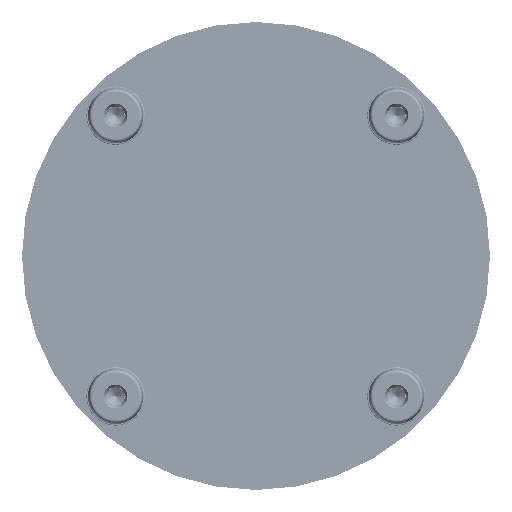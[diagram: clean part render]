
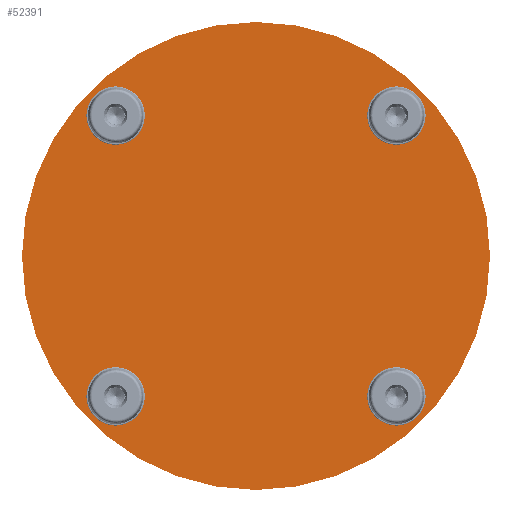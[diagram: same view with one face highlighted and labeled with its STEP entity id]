
A CAD part, front view. The second image highlights one B-rep face of the part: STEP entity #52391.
In plain terms, the highlighted planar face has unit normal (0, -1, 0).
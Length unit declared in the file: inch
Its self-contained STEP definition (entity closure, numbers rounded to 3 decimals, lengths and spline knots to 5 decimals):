
#198 = EDGE_CURVE ( 'NONE', #19396, #61383, #55914, .T. ) ;
#200 = EDGE_CURVE ( 'NONE', #61383, #19396, #22660, .T. ) ;
#1012 = EDGE_CURVE ( 'NONE', #45020, #41344, #14948, .T. ) ;
#1208 = DIRECTION ( 'NONE',  ( 0., -1., 0. ) ) ;
#1370 = CARTESIAN_POINT ( 'NONE',  ( -1.88976, 0., 1.88976 ) ) ;
#1831 = CARTESIAN_POINT ( 'NONE',  ( 1.88976, 0., -1.88976 ) ) ;
#2734 = AXIS2_PLACEMENT_3D ( 'NONE', #1370, #54151, #59600 ) ;
#3017 = CARTESIAN_POINT ( 'NONE',  ( 1.88976, 0., -1.57441 ) ) ;
#3176 = EDGE_CURVE ( 'NONE', #41901, #48479, #38079, .T. ) ;
#3272 = DIRECTION ( 'NONE',  ( 0., 0., 1. ) ) ;
#4342 = FACE_OUTER_BOUND ( 'NONE', #22835, .T. ) ;
#4495 = CARTESIAN_POINT ( 'NONE',  ( -1.88976, 0., -1.88976 ) ) ;
#4694 = CIRCLE ( 'NONE', #40694, 3.14961 ) ;
#6485 = ORIENTED_EDGE ( 'NONE', *, *, #30008, .F. ) ;
#8248 = CARTESIAN_POINT ( 'NONE',  ( 0., 0., 0. ) ) ;
#9280 = ORIENTED_EDGE ( 'NONE', *, *, #39548, .F. ) ;
#9637 = DIRECTION ( 'NONE',  ( 0., -1., 0. ) ) ;
#9663 = AXIS2_PLACEMENT_3D ( 'NONE', #23042, #37602, #3272 ) ;
#10604 = VERTEX_POINT ( 'NONE', #22580 ) ;
#11133 = CARTESIAN_POINT ( 'NONE',  ( -1.88976, 0., 1.88976 ) ) ;
#11587 = AXIS2_PLACEMENT_3D ( 'NONE', #62559, #9637, #48211 ) ;
#12040 = AXIS2_PLACEMENT_3D ( 'NONE', #1831, #1208, #59640 ) ;
#14948 = CIRCLE ( 'NONE', #57300, 0.31535 ) ;
#15359 = EDGE_LOOP ( 'NONE', ( #6485, #33282 ) ) ;
#15990 = CARTESIAN_POINT ( 'NONE',  ( 0., 0., 0. ) ) ;
#16418 = DIRECTION ( 'NONE',  ( 0., 0., -1. ) ) ;
#16887 = CARTESIAN_POINT ( 'NONE',  ( 1.88976, 0., 1.88976 ) ) ;
#17666 = AXIS2_PLACEMENT_3D ( 'NONE', #54811, #25883, #40445 ) ;
#18263 = ORIENTED_EDGE ( 'NONE', *, *, #20697, .F. ) ;
#18921 = VERTEX_POINT ( 'NONE', #25530 ) ;
#19357 = FACE_BOUND ( 'NONE', #15359, .T. ) ;
#19396 = VERTEX_POINT ( 'NONE', #29554 ) ;
#20191 = ORIENTED_EDGE ( 'NONE', *, *, #59685, .T. ) ;
#20225 = AXIS2_PLACEMENT_3D ( 'NONE', #16887, #40529, #36074 ) ;
#20697 = EDGE_CURVE ( 'NONE', #24409, #18921, #45049, .T. ) ;
#21725 = EDGE_LOOP ( 'NONE', ( #56237, #45033 ) ) ;
#22580 = CARTESIAN_POINT ( 'NONE',  ( 0., 0., 3.14961 ) ) ;
#22660 = CIRCLE ( 'NONE', #12040, 0.31535 ) ;
#22835 = EDGE_LOOP ( 'NONE', ( #45180, #20191 ) ) ;
#23042 = CARTESIAN_POINT ( 'NONE',  ( -1.88976, 0., -1.88976 ) ) ;
#23897 = DIRECTION ( 'NONE',  ( 0., -1., 0. ) ) ;
#23913 = FACE_BOUND ( 'NONE', #36720, .T. ) ;
#24409 = VERTEX_POINT ( 'NONE', #30979 ) ;
#25530 = CARTESIAN_POINT ( 'NONE',  ( -1.88976, 0., -1.57441 ) ) ;
#25883 = DIRECTION ( 'NONE',  ( 0., -1., 0. ) ) ;
#26079 = DIRECTION ( 'NONE',  ( 0., -1., 0. ) ) ;
#28487 = DIRECTION ( 'NONE',  ( 0., 0., 1. ) ) ;
#29554 = CARTESIAN_POINT ( 'NONE',  ( 1.88976, 0., -2.20511 ) ) ;
#29893 = CIRCLE ( 'NONE', #2734, 0.31535 ) ;
#30008 = EDGE_CURVE ( 'NONE', #41344, #45020, #29893, .T. ) ;
#30979 = CARTESIAN_POINT ( 'NONE',  ( -1.88976, 0., -2.20511 ) ) ;
#32024 = VERTEX_POINT ( 'NONE', #49852 ) ;
#32701 = DIRECTION ( 'NONE',  ( 0., -1., 0. ) ) ;
#33076 = AXIS2_PLACEMENT_3D ( 'NONE', #52836, #23897, #33565 ) ;
#33282 = ORIENTED_EDGE ( 'NONE', *, *, #1012, .F. ) ;
#33565 = DIRECTION ( 'NONE',  ( 0., 0., 1. ) ) ;
#34430 = CARTESIAN_POINT ( 'NONE',  ( -1.88976, 0., 2.20511 ) ) ;
#36074 = DIRECTION ( 'NONE',  ( 0., 0., 1. ) ) ;
#36720 = EDGE_LOOP ( 'NONE', ( #48922, #47540 ) ) ;
#36743 = FACE_BOUND ( 'NONE', #44940, .T. ) ;
#37602 = DIRECTION ( 'NONE',  ( 0., -1., 0. ) ) ;
#38079 = CIRCLE ( 'NONE', #20225, 0.31535 ) ;
#39548 = EDGE_CURVE ( 'NONE', #18921, #24409, #40300, .T. ) ;
#40300 = CIRCLE ( 'NONE', #9663, 0.31535 ) ;
#40445 = DIRECTION ( 'NONE',  ( 0., 0., -1. ) ) ;
#40529 = DIRECTION ( 'NONE',  ( 0., -1., 0. ) ) ;
#40694 = AXIS2_PLACEMENT_3D ( 'NONE', #15990, #54211, #16418 ) ;
#41344 = VERTEX_POINT ( 'NONE', #48142 ) ;
#41901 = VERTEX_POINT ( 'NONE', #54090 ) ;
#41958 = DIRECTION ( 'NONE',  ( 0., -1., 0. ) ) ;
#43854 = CIRCLE ( 'NONE', #33076, 0.31535 ) ;
#44940 = EDGE_LOOP ( 'NONE', ( #18263, #9280 ) ) ;
#45020 = VERTEX_POINT ( 'NONE', #34430 ) ;
#45033 = ORIENTED_EDGE ( 'NONE', *, *, #200, .F. ) ;
#45049 = CIRCLE ( 'NONE', #46746, 0.31535 ) ;
#45180 = ORIENTED_EDGE ( 'NONE', *, *, #59231, .T. ) ;
#46746 = AXIS2_PLACEMENT_3D ( 'NONE', #4495, #32701, #28487 ) ;
#47221 = AXIS2_PLACEMENT_3D ( 'NONE', #8248, #41958, #58175 ) ;
#47540 = ORIENTED_EDGE ( 'NONE', *, *, #3176, .F. ) ;
#48142 = CARTESIAN_POINT ( 'NONE',  ( -1.88976, 0., 1.57441 ) ) ;
#48211 = DIRECTION ( 'NONE',  ( 0., 0., -1. ) ) ;
#48479 = VERTEX_POINT ( 'NONE', #57965 ) ;
#48922 = ORIENTED_EDGE ( 'NONE', *, *, #61106, .F. ) ;
#49852 = CARTESIAN_POINT ( 'NONE',  ( 0., 0., -3.14961 ) ) ;
#52391 = ADVANCED_FACE ( 'NONE', ( #36743, #60902, #23913, #19357, #4342 ), #57358, .T. ) ;
#52836 = CARTESIAN_POINT ( 'NONE',  ( 1.88976, 0., 1.88976 ) ) ;
#53238 = CIRCLE ( 'NONE', #11587, 3.14961 ) ;
#54090 = CARTESIAN_POINT ( 'NONE',  ( 1.88976, 0., 2.20511 ) ) ;
#54151 = DIRECTION ( 'NONE',  ( 0., -1., 0. ) ) ;
#54211 = DIRECTION ( 'NONE',  ( 0., -1., 0. ) ) ;
#54811 = CARTESIAN_POINT ( 'NONE',  ( 1.88976, 0., -1.88976 ) ) ;
#55914 = CIRCLE ( 'NONE', #17666, 0.31535 ) ;
#56237 = ORIENTED_EDGE ( 'NONE', *, *, #198, .F. ) ;
#57300 = AXIS2_PLACEMENT_3D ( 'NONE', #11133, #26079, #60239 ) ;
#57358 = PLANE ( 'NONE',  #47221 ) ;
#57965 = CARTESIAN_POINT ( 'NONE',  ( 1.88976, 0., 1.57441 ) ) ;
#58175 = DIRECTION ( 'NONE',  ( 0., 0., -1. ) ) ;
#59231 = EDGE_CURVE ( 'NONE', #32024, #10604, #4694, .T. ) ;
#59600 = DIRECTION ( 'NONE',  ( 0., 0., -1. ) ) ;
#59640 = DIRECTION ( 'NONE',  ( 0., 0., -1. ) ) ;
#59685 = EDGE_CURVE ( 'NONE', #10604, #32024, #53238, .T. ) ;
#60239 = DIRECTION ( 'NONE',  ( 0., 0., -1. ) ) ;
#60902 = FACE_BOUND ( 'NONE', #21725, .T. ) ;
#61106 = EDGE_CURVE ( 'NONE', #48479, #41901, #43854, .T. ) ;
#61383 = VERTEX_POINT ( 'NONE', #3017 ) ;
#62559 = CARTESIAN_POINT ( 'NONE',  ( 0., 0., 0. ) ) ;
